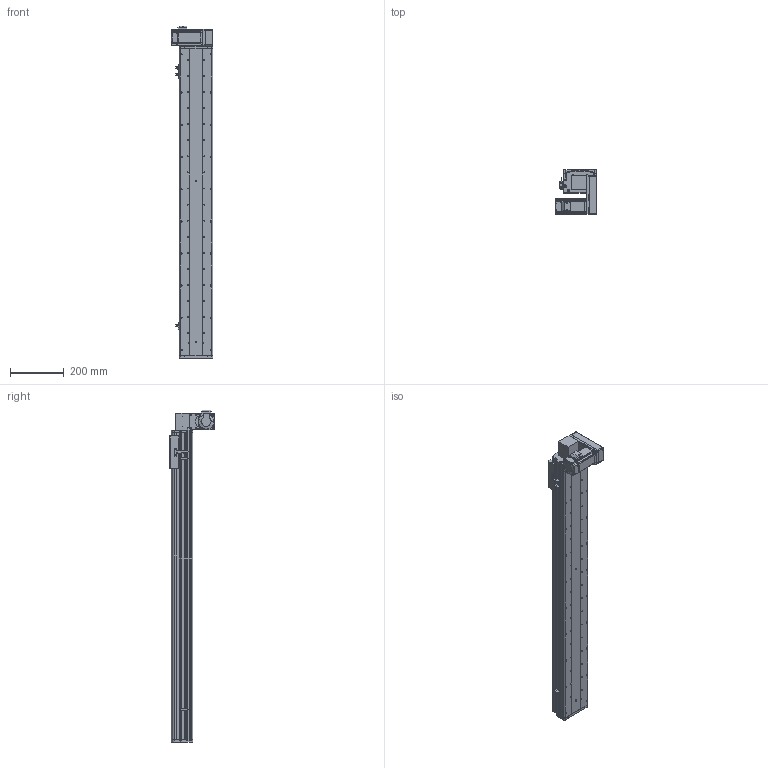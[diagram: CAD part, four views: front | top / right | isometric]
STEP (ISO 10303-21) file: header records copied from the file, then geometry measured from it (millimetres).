
FILE_DESCRIPTION (( 'STEP AP214' ), '1' );
FILE_NAME ('KSD125B-S950-MLD-CM.STEP', '2017-10-21T02:28:26', ( '微软用户' ), ( '微软中国' ), 'SwSTEP 2.0', 'SolidWorks 2014', '' );
FILE_SCHEMA (( 'AUTOMOTIVE_DESIGN' ));
Length unit declared in the file: millimetre
Products named in the file (17): KSD125B-S950-MLD-CM; 悵誘欶奻狟殏; 100宽马达安装板连板上下折丝杆同步带; HTPA30S3M150_A_H6_a佪裝蚚; HTPA30S3M150_A_H6_a萇儂蚚; 100宽马达安装板同步带左; KSD125模组950行程同步带-防尘盖; 125模组950行程同步带-底板; MHMD042G1CA_2_03; KSD125模组同步带-防撞垫2; 覜茼え68遵圉猾敕; U倰嫖萇假蚾璃; U倰嫖萇EEㄜSX672; KSD125模组同步带-防撞垫1; 前端板-125宽模组同步带; 125模组同步带-尾端板1; KSD125模组同步带-滑动座1
Assembly tree (20 placements, depth 2):
  KSD125B-S950-MLD-CM
    KSD125模组同步带-滑动座1
    125模组同步带-尾端板1
    前端板-125宽模组同步带
    KSD125模组同步带-防撞垫1
    U倰嫖萇EEㄜSX672  x3
    U倰嫖萇假蚾璃  x3
    覜茼え68遵圉猾敕
    KSD125模组同步带-防撞垫2
    MHMD042G1CA_2_03
    125模组950行程同步带-底板
    KSD125模组950行程同步带-防尘盖
    100宽马达安装板同步带左
    HTPA30S3M150_A_H6_a萇儂蚚
    HTPA30S3M150_A_H6_a佪裝蚚
    100宽马达安装板连板上下折丝杆同步带
    悵誘欶奻狟殏
Bounding box: 155 x 166.5 x 1239 mm (x, y, z)
Volume: 3791744.7 mm3; surface area: 1278728.7 mm2
Topology: 19 solids, 22 shells, 2307 faces, 6685 edges, 4418 vertices
Faces by surface type: cylinder 1452, plane 728, cone 105, bspline 22
Entity records: 82151 total; most frequent: CARTESIAN_POINT 16215, DIRECTION 12770, ORIENTED_EDGE 11890, EDGE_CURVE 6023, AXIS2_PLACEMENT_3D 4941, VERTEX_POINT 4010, VECTOR 2888, LINE 2888
